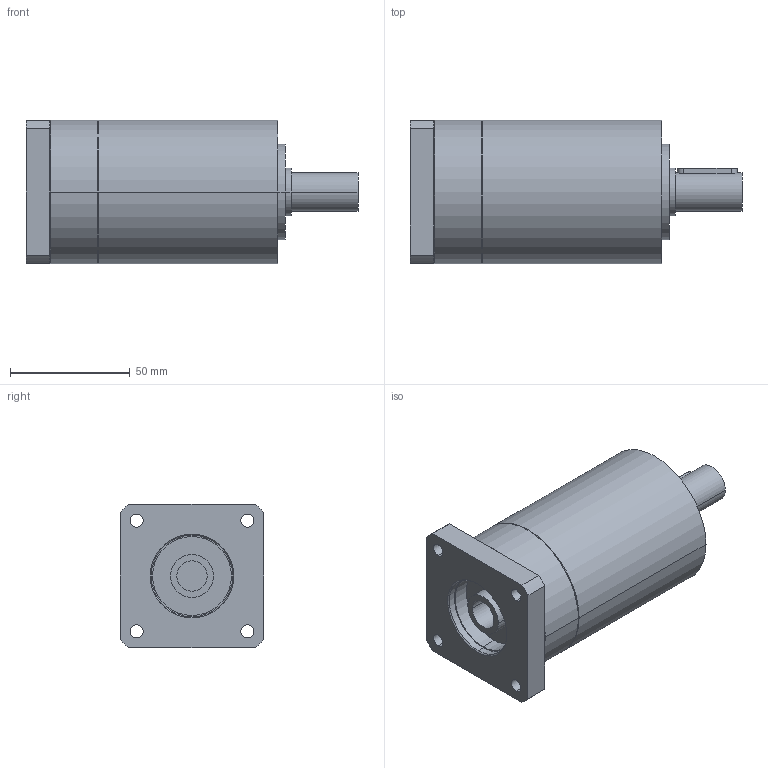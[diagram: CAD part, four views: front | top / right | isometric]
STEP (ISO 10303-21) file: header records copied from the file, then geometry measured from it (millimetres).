
FILE_DESCRIPTION(('CoCreate Modeling STEP Export'),'2;1');
FILE_NAME('GPR75_ig-9-12-16-20-24-30-36_16_B14_12.7_P26.stp','2014-08-25T16:01:59',(''),(''),'CoCreate Modeling STEP processor for AP214 (Solid Model)','CoCreate Modeling 16.00C 25-Feb-2009 (C) Parametric Technology GmbH','');
FILE_SCHEMA(('AUTOMOTIVE_DESIGN { 1 0 10303 214 1 1 1 1 }'));
Length unit declared in the file: millimetre
Products named in the file (2): GPR75_ig-9-12-16-20-24-30-36_16_B14_12.7_P26
Assembly tree (1 placements, depth 2):
  GPR75_ig-9-12-16-20-24-30-36_16_B14_12.7_P26
    GPR75_ig-9-12-16-20-24-30-36_16_B14_12.7_P26
Bounding box: 138.9 x 60 x 60 mm (x, y, z)
Volume: 302413.8 mm3; surface area: 33796.6 mm2
Topology: 1 solids, 1 shells, 88 faces, 226 edges, 152 vertices
Faces by surface type: cylinder 50, plane 30, cone 8
Entity records: 2307 total; most frequent: ORIENTED_EDGE 448, CARTESIAN_POINT 414, DIRECTION 320, EDGE_CURVE 224, VERTEX_POINT 152, AXIS2_PLACEMENT_3D 122, EDGE_LOOP 110, FACE_OUTER_BOUND 88
